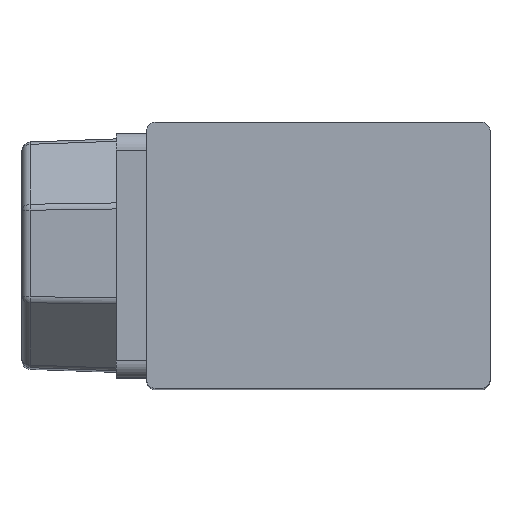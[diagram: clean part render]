
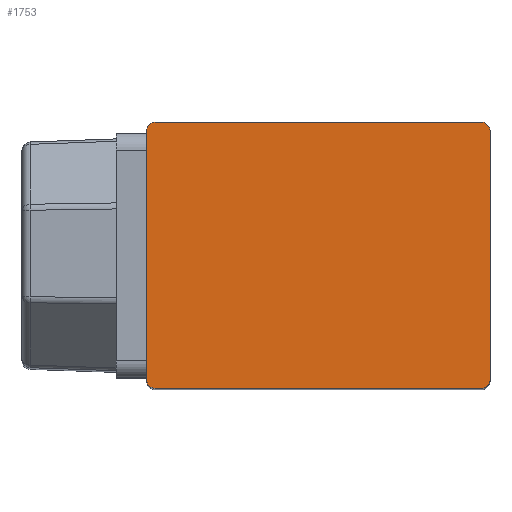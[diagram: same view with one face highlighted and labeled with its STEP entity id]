
A CAD part, top view. The second image highlights one B-rep face of the part: STEP entity #1753.
In plain terms, the highlighted planar face has unit normal (0, 0, 1).
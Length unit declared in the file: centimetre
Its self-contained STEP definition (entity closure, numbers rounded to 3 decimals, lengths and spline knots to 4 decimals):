
#204=VECTOR('',#2308,1.);
#214=VECTOR('',#2332,1.);
#220=VECTOR('',#2353,1.);
#237=VECTOR('',#2456,1.);
#318=LINE('',#2933,#204);
#328=LINE('',#2964,#214);
#334=LINE('',#2988,#220);
#351=LINE('',#3080,#237);
#463=VERTEX_POINT('',#2921);
#464=VERTEX_POINT('',#2922);
#468=VERTEX_POINT('',#2932);
#476=VERTEX_POINT('',#2952);
#481=VERTEX_POINT('',#2963);
#482=VERTEX_POINT('',#2967);
#483=VERTEX_POINT('',#2968);
#492=VERTEX_POINT('',#2989);
#577=CIRCLE('',#1899,0.2);
#583=CIRCLE('',#1908,0.2);
#584=CIRCLE('',#1911,0.2);
#590=CIRCLE('',#1919,0.2);
#784=EDGE_CURVE('',#463,#464,#577,.T.);
#790=EDGE_CURVE('',#468,#463,#318,.T.);
#799=EDGE_CURVE('',#476,#468,#583,.T.);
#806=EDGE_CURVE('',#481,#476,#328,.T.);
#807=EDGE_CURVE('',#482,#483,#584,.T.);
#819=EDGE_CURVE('',#483,#492,#334,.T.);
#821=EDGE_CURVE('',#492,#481,#590,.T.);
#857=EDGE_CURVE('',#464,#482,#351,.T.);
#1344=ORIENTED_EDGE('',*,*,#784,.F.);
#1345=ORIENTED_EDGE('',*,*,#790,.F.);
#1346=ORIENTED_EDGE('',*,*,#799,.F.);
#1347=ORIENTED_EDGE('',*,*,#806,.F.);
#1348=ORIENTED_EDGE('',*,*,#821,.F.);
#1349=ORIENTED_EDGE('',*,*,#819,.F.);
#1350=ORIENTED_EDGE('',*,*,#807,.F.);
#1351=ORIENTED_EDGE('',*,*,#857,.F.);
#1495=EDGE_LOOP('',(#1344,#1345,#1346,#1347,#1348,#1349,#1350,#1351));
#1639=FACE_BOUND('',#1495,.T.);
#1753=ADVANCED_FACE('',(#1639),#3136,.T.);
#1899=AXIS2_PLACEMENT_3D('',#2920,#2299,#2300);
#1908=AXIS2_PLACEMENT_3D('',#2951,#2324,#2325);
#1911=AXIS2_PLACEMENT_3D('',#2966,#2335,#2336);
#1919=AXIS2_PLACEMENT_3D('',#2992,#2357,#2358);
#1968=AXIS2_PLACEMENT_3D('',#3081,#2457,$);
#2299=DIRECTION('',(0.,0.,-1.));
#2300=DIRECTION('',(0.141,-0.141,0.));
#2308=DIRECTION('',(0.,-1.,0.));
#2324=DIRECTION('',(0.,0.,-1.));
#2325=DIRECTION('',(0.141,0.141,0.));
#2332=DIRECTION('',(1.,0.,0.));
#2335=DIRECTION('',(0.,0.,-1.));
#2336=DIRECTION('',(-0.141,-0.141,0.));
#2353=DIRECTION('',(0.,1.,0.));
#2357=DIRECTION('',(0.,0.,-1.));
#2358=DIRECTION('',(-0.141,0.141,0.));
#2456=DIRECTION('',(-1.,0.,0.));
#2457=DIRECTION('',(0.,0.,1.));
#2920=CARTESIAN_POINT('',(3.8,-2.9,19.8));
#2921=CARTESIAN_POINT('',(4.,-2.9,19.8));
#2922=CARTESIAN_POINT('',(3.8,-3.1,19.8));
#2932=CARTESIAN_POINT('',(4.,2.9,19.8));
#2933=CARTESIAN_POINT('',(4.,-3.1,19.8));
#2951=CARTESIAN_POINT('',(3.8,2.9,19.8));
#2952=CARTESIAN_POINT('',(3.8,3.1,19.8));
#2963=CARTESIAN_POINT('',(-3.8,3.1,19.8));
#2964=CARTESIAN_POINT('',(4.,3.1,19.8));
#2966=CARTESIAN_POINT('',(-3.8,-2.9,19.8));
#2967=CARTESIAN_POINT('',(-3.8,-3.1,19.8));
#2968=CARTESIAN_POINT('',(-4.,-2.9,19.8));
#2988=CARTESIAN_POINT('',(-4.,3.1,19.8));
#2989=CARTESIAN_POINT('',(-4.,2.9,19.8));
#2992=CARTESIAN_POINT('',(-3.8,2.9,19.8));
#3080=CARTESIAN_POINT('',(-4.,-3.1,19.8));
#3081=CARTESIAN_POINT('',(0.,0.,19.8));
#3136=PLANE('',#1968);
